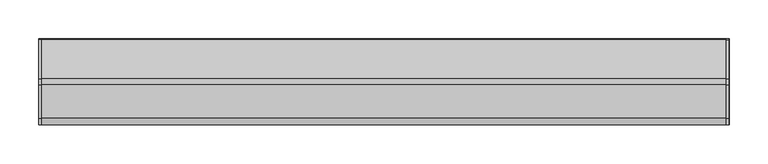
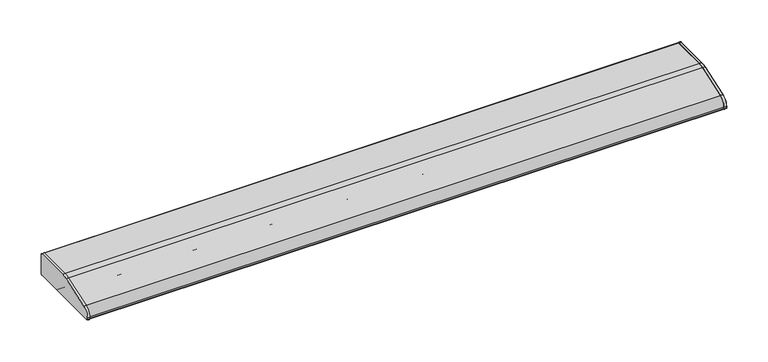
"""IFC4 building model written with IfcOpenShell, lengths in millimetres: light fixture geometry, HermanMiller_SupplementalProducts_G6136_UtilityTaskLight : AO Etho Canvas 42W."""

from ifc_helpers import new_model, si_unit, point, frame, frame_2d, origin, place, context, project, spatial, polyline, circle_curve, trimmed, segment, composite_curve, outline, extrude, source, transform, mapped, element, save


def light_fixture_9518d37c(model_context):
    return source(origin(), model_context, "Body", "SweptSolid", [
        extrude(outline(composite_curve([segment(polyline([(53.975, 1206.5), (-53.975, 1206.5)]), True, "CONTINUOUS"), segment(trimmed(circle_curve(frame_2d((-53.975, 1208.0875)), 1.5875), [point((-53.975, 1206.5))], [point((-55.5625, 1208.0875))], False, "CARTESIAN"), True, "CONTINUOUS"), segment(polyline([(-55.5625, 1208.0875), (-55.5625, 1210.1285714)]), True, "CONTINUOUS"), segment(trimmed(circle_curve(frame_2d((-42.8625, 1210.1285714)), 12.7), [point((-55.5625, 1210.1285714))], [point((-46.9814189, 1222.1420849))], False, "CARTESIAN"), True, "CONTINUOUS"), segment(polyline([(-46.9814189, 1222.1420849), (-4.0045045, 1236.877027)]), True, "CONTINUOUS"), segment(trimmed(circle_curve(frame_2d((4.2333333, 1212.85)), 25.4), [point((-4.0045045, 1236.877027))], [point((4.2333333, 1238.25))], False, "CARTESIAN"), True, "CONTINUOUS"), segment(polyline([(4.2333333, 1238.25), (53.975, 1238.25)]), True, "CONTINUOUS"), segment(trimmed(circle_curve(frame_2d((53.975, 1236.6625)), 1.5875), [point((53.975, 1238.25))], [point((55.5625, 1236.6625))], False, "CARTESIAN"), True, "CONTINUOUS"), segment(polyline([(55.5625, 1236.6625), (55.5625, 1208.0875)]), True, "CONTINUOUS"), segment(trimmed(circle_curve(frame_2d((53.975, 1208.0875)), 1.5875), [point((55.5625, 1208.0875))], [point((53.975, 1206.5))], False, "CARTESIAN"), True, "CONTINUOUS")], self_intersect=False)), frame((441.833, 0.0, 0.0), z_axis=(1.0, 0.0, 0.0), x_axis=(0.0, 1.0, 0.0)), (0.0, 0.0, 1.0), 3.175),
        extrude(outline(composite_curve([segment(trimmed(circle_curve(frame_2d((53.975, 1236.6625)), 1.5875), [point((53.975, 1238.25))], [point((55.5625, 1236.6625))], False, "CARTESIAN"), True, "CONTINUOUS"), segment(polyline([(55.5625, 1236.6625), (55.5625, 1208.0875)]), True, "CONTINUOUS"), segment(trimmed(circle_curve(frame_2d((53.975, 1208.0875)), 1.5875), [point((55.5625, 1208.0875))], [point((53.975, 1206.5))], False, "CARTESIAN"), True, "CONTINUOUS"), segment(polyline([(53.975, 1206.5), (-53.975, 1206.5)]), True, "CONTINUOUS"), segment(trimmed(circle_curve(frame_2d((-53.975, 1208.0875)), 1.5875), [point((-53.975, 1206.5))], [point((-55.5625, 1208.0875))], False, "CARTESIAN"), True, "CONTINUOUS"), segment(polyline([(-55.5625, 1208.0875), (-55.5625, 1210.1285714)]), True, "CONTINUOUS"), segment(trimmed(circle_curve(frame_2d((-42.8625, 1210.1285714)), 12.7), [point((-55.5625, 1210.1285714))], [point((-46.9814189, 1222.1420849))], False, "CARTESIAN"), True, "CONTINUOUS"), segment(polyline([(-46.9814189, 1222.1420849), (-4.0045045, 1236.877027)]), True, "CONTINUOUS"), segment(trimmed(circle_curve(frame_2d((4.2333333, 1212.85)), 25.4), [point((-4.0045045, 1236.877027))], [point((4.2333333, 1238.25))], False, "CARTESIAN"), True, "CONTINUOUS"), segment(polyline([(4.2333333, 1238.25), (53.975, 1238.25)]), True, "CONTINUOUS")], self_intersect=False)), frame((-445.008, 0.0, 0.0), z_axis=(1.0, 0.0, 0.0), x_axis=(0.0, 1.0, 0.0)), (0.0, 0.0, 1.0), 3.175),
        extrude(outline(composite_curve([segment(polyline([(55.5625, 1236.6625), (55.5625, 1208.0875)]), True, "CONTINUOUS"), segment(trimmed(circle_curve(frame_2d((53.975, 1208.0875)), 1.5875), [point((55.5625, 1208.0875))], [point((53.975, 1206.5))], False, "CARTESIAN"), True, "CONTINUOUS"), segment(polyline([(53.975, 1206.5), (19.05, 1206.5)]), True, "CONTINUOUS"), segment(trimmed(circle_curve(frame_2d((19.05, 1208.0875)), 1.5875), [point((19.05, 1206.5))], [point((17.4625, 1208.0875))], False, "CARTESIAN"), True, "CONTINUOUS"), segment(polyline([(17.4625, 1208.0875), (17.4625, 1236.6625), (4.4979167, 1236.6625)]), True, "CONTINUOUS"), segment(trimmed(circle_curve(frame_2d((4.4979167, 1211.2625)), 25.4), [point((4.4979167, 1236.6625))], [point((-3.7399212, 1235.289527))], True, "CARTESIAN"), True, "CONTINUOUS"), segment(polyline([(-3.7399212, 1235.289527), (-37.4564189, 1223.7295849)]), True, "CONTINUOUS"), segment(trimmed(circle_curve(frame_2d((-33.3375, 1211.7160714)), 12.7), [point((-37.4564189, 1223.7295849))], [point((-46.0375, 1211.7160714))], True, "CARTESIAN"), True, "CONTINUOUS"), segment(polyline([(-46.0375, 1211.7160714), (-46.0375, 1208.0875)]), True, "CONTINUOUS"), segment(trimmed(circle_curve(frame_2d((-47.625, 1208.0875)), 1.5875), [point((-46.0375, 1208.0875))], [point((-47.625, 1206.5))], False, "CARTESIAN"), True, "CONTINUOUS"), segment(polyline([(-47.625, 1206.5), (-53.975, 1206.5)]), True, "CONTINUOUS"), segment(trimmed(circle_curve(frame_2d((-53.975, 1208.0875)), 1.5875), [point((-53.975, 1206.5))], [point((-55.5625, 1208.0875))], False, "CARTESIAN"), True, "CONTINUOUS"), segment(polyline([(-55.5625, 1208.0875), (-55.5625, 1210.1285714)]), True, "CONTINUOUS"), segment(trimmed(circle_curve(frame_2d((-42.8625, 1210.1285714)), 12.7), [point((-55.5625, 1210.1285714))], [point((-46.9814189, 1222.1420849))], False, "CARTESIAN"), True, "CONTINUOUS"), segment(polyline([(-46.9814189, 1222.1420849), (-4.0045045, 1236.877027)]), True, "CONTINUOUS"), segment(trimmed(circle_curve(frame_2d((4.2333333, 1212.85)), 25.4), [point((-4.0045045, 1236.877027))], [point((4.2333333, 1238.25))], False, "CARTESIAN"), True, "CONTINUOUS"), segment(polyline([(4.2333333, 1238.25), (53.975, 1238.25)]), True, "CONTINUOUS"), segment(trimmed(circle_curve(frame_2d((53.975, 1236.6625)), 1.5875), [point((53.975, 1238.25))], [point((55.5625, 1236.6625))], False, "CARTESIAN"), True, "CONTINUOUS")], self_intersect=False)), frame((-445.008, 0.0, 0.0), z_axis=(1.0, 0.0, 0.0), x_axis=(0.0, 1.0, 0.0)), (0.0, 0.0, 1.0), 890.4820011),
        extrude(outline(composite_curve([segment(trimmed(circle_curve(frame_2d((1.5875, 1223.9625)), 9.525), [point((-7.9375, 1223.9625))], [point((11.1125, 1223.9625))], False, "CARTESIAN"), True, "CONTINUOUS"), segment(trimmed(circle_curve(frame_2d((1.5875, 1223.9625)), 9.525), [point((11.1125, 1223.9625))], [point((-7.9375, 1223.9625))], False, "CARTESIAN"), True, "CONTINUOUS")], self_intersect=False)), frame((419.608, 0.0, 0.0), z_axis=(1.0, 0.0, 0.0), x_axis=(0.0, 1.0, 0.0)), (0.0, 0.0, 1.0), 12.7),
        extrude(outline(composite_curve([segment(trimmed(circle_curve(frame_2d((1.5875, 1223.9625)), 9.525), [point((-7.9375, 1223.9625))], [point((11.1125, 1223.9625))], False, "CARTESIAN"), True, "CONTINUOUS"), segment(trimmed(circle_curve(frame_2d((1.5875, 1223.9625)), 9.525), [point((11.1125, 1223.9625))], [point((-7.9375, 1223.9625))], False, "CARTESIAN"), True, "CONTINUOUS")], self_intersect=False)), frame((-432.308, 0.0, 0.0), z_axis=(1.0, 0.0, 0.0), x_axis=(0.0, 1.0, 0.0)), (0.0, 0.0, 1.0), 12.7),
        extrude(outline(composite_curve([segment(trimmed(circle_curve(frame_2d((1.5875, 1223.9625)), 9.525), [point((-7.9375, 1223.9625))], [point((11.1125, 1223.9625))], False, "CARTESIAN"), True, "CONTINUOUS"), segment(trimmed(circle_curve(frame_2d((1.5875, 1223.9625)), 9.525), [point((11.1125, 1223.9625))], [point((-7.9375, 1223.9625))], False, "CARTESIAN"), True, "CONTINUOUS")], self_intersect=False)), frame((-419.608, 0.0, 0.0), z_axis=(1.0, 0.0, 0.0), x_axis=(0.0, 1.0, 0.0)), (0.0, 0.0, 1.0), 839.216),
        extrude(outline(composite_curve([segment(polyline([(17.4625, 1209.675), (-46.0375, 1209.675), (-46.0375, 1211.7160714)]), True, "CONTINUOUS"), segment(trimmed(circle_curve(frame_2d((-33.3375, 1211.7160714)), 12.7), [point((-46.0375, 1211.7160714))], [point((-37.4564189, 1223.7295849))], False, "CARTESIAN"), True, "CONTINUOUS"), segment(polyline([(-37.4564189, 1223.7295849), (-3.7399212, 1235.289527)]), True, "CONTINUOUS"), segment(trimmed(circle_curve(frame_2d((4.4979167, 1211.2625)), 25.4), [point((-3.7399212, 1235.289527))], [point((4.4979167, 1236.6625))], False, "CARTESIAN"), True, "CONTINUOUS"), segment(polyline([(4.4979167, 1236.6625), (17.4625, 1236.6625), (17.4625, 1209.675)]), True, "CONTINUOUS")], self_intersect=False)), frame((432.308, 0.0, 0.0), z_axis=(1.0, 0.0, 0.0), x_axis=(0.0, 1.0, 0.0)), (0.0, 0.0, 1.0), 9.525),
        extrude(outline(composite_curve([segment(polyline([(17.4625, 1209.675), (-46.0375, 1209.675), (-46.0375, 1211.7160714)]), True, "CONTINUOUS"), segment(trimmed(circle_curve(frame_2d((-33.3375, 1211.7160714)), 12.7), [point((-46.0375, 1211.7160714))], [point((-37.4564189, 1223.7295849))], False, "CARTESIAN"), True, "CONTINUOUS"), segment(polyline([(-37.4564189, 1223.7295849), (-3.7399212, 1235.289527)]), True, "CONTINUOUS"), segment(trimmed(circle_curve(frame_2d((4.4979167, 1211.2625)), 25.4), [point((-3.7399212, 1235.289527))], [point((4.4979167, 1236.6625))], False, "CARTESIAN"), True, "CONTINUOUS"), segment(polyline([(4.4979167, 1236.6625), (17.4625, 1236.6625), (17.4625, 1209.675)]), True, "CONTINUOUS")], self_intersect=False)), frame((-441.833, 0.0, 0.0), z_axis=(1.0, 0.0, 0.0), x_axis=(0.0, 1.0, 0.0)), (0.0, 0.0, 1.0), 9.525),
    ])


if __name__ == "__main__":
    model = new_model("IFC4")
    model_context = context("Model", 3, world=origin())
    ifc_project = project(units=[si_unit("LENGTHUNIT", "METRE", prefix="MILLI")], contexts=[model_context])
    site = spatial("IfcSite", under=ifc_project)
    building = spatial("IfcBuilding", under=site)
    placement = place(None, origin())
    light_fixture_shape = light_fixture_9518d37c(model_context)
    element("IfcLightFixture", 1, ObjectType="HermanMiller_SupplementalProducts_G6136_UtilityTaskLight : AO Etho Canvas 42W", at=placement, inside=building, context=model_context, shape_type="MappedRepresentation", body=[
        mapped(light_fixture_shape, transform((0.0, 0.0, 0.0), x_axis=(1.0, 0.0, 0.0), y_axis=(0.0, 1.0, 0.0), z_axis=(0.0, 0.0, 1.0))),
    ])
    save(model, "model.ifc")
